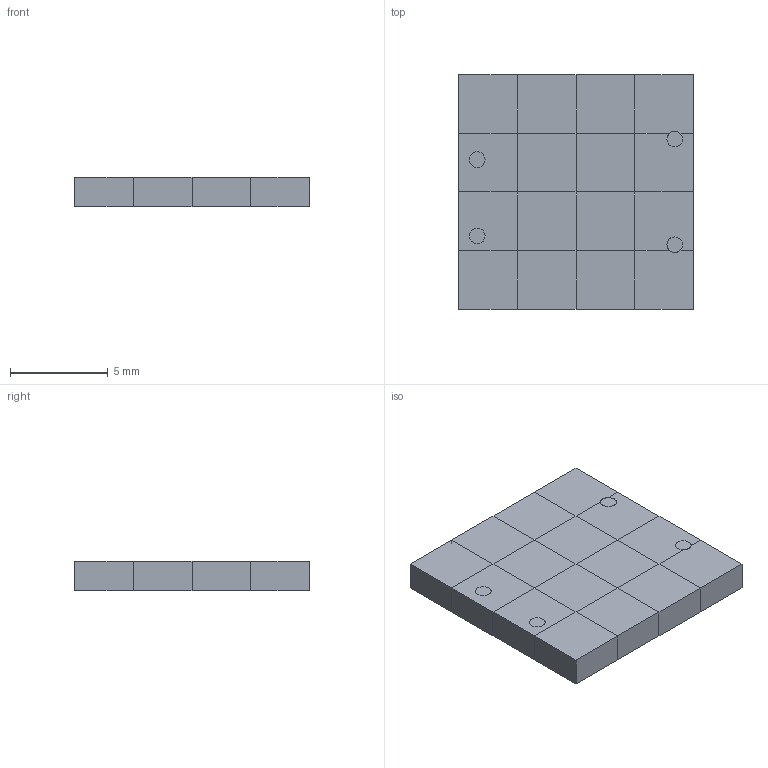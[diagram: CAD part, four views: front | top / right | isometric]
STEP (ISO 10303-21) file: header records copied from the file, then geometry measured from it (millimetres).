
FILE_DESCRIPTION(('Open CASCADE Model'),'2;1');
FILE_NAME('Open CASCADE Shape Model','2026-11-27T10:06:56',('Author'),( 'Open CASCADE'),'Open CASCADE STEP processor 7.9','Open CASCADE 7.9' ,'Unknown');
FILE_SCHEMA(('AUTOMOTIVE_DESIGN { 1 0 10303 214 1 1 1 1 }'));
Length unit declared in the file: millimetre
Products named in the file (3): manifold_N2; fluid; solid
Assembly tree (2 placements, depth 2):
  manifold_N2
    fluid
    solid
Bounding box: 12 x 12 x 1.5 mm (x, y, z)
Volume: 216 mm3; surface area: 1441.9 mm2
Topology: 2 solids, 2 shells, 1312 faces, 4474 edges, 2534 vertices
Faces by surface type: plane 1304, cylinder 8
Full cylindrical faces by diameter (mm): 0.8 x8
Entity records: 105434 total; most frequent: CARTESIAN_POINT 18311, DIRECTION 15828, LINE 12894, VECTOR 12894, ORIENTED_EDGE 8948, PCURVE 8948, DEFINITIONAL_REPRESENTATION 8948, EDGE_CURVE 4474
